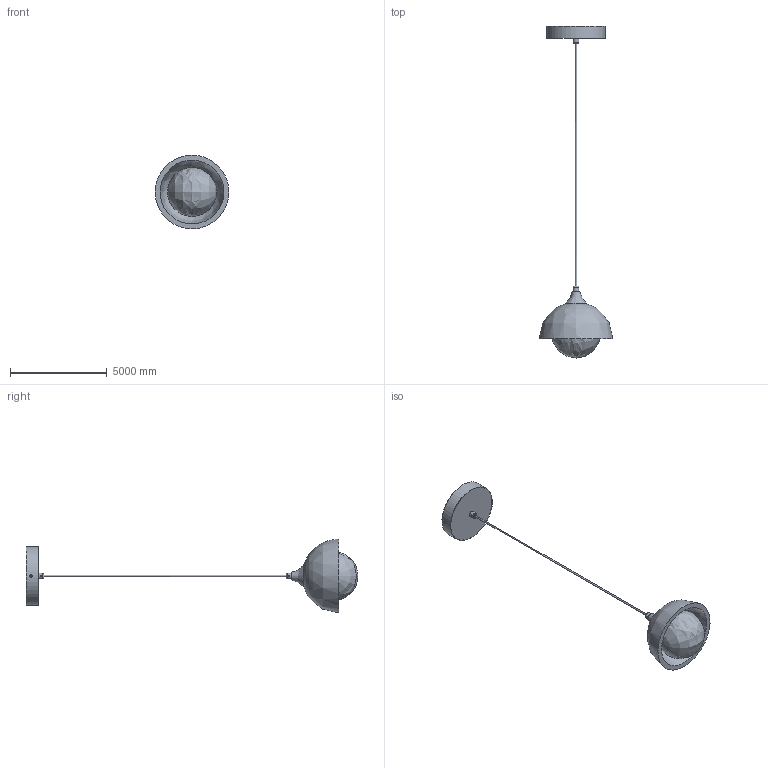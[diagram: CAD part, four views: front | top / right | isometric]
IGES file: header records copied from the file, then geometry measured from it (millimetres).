
Global section: file name: Artome Marble Pendant Lamp-1head; native system: AutoCAD 2022 - 简体中文 (Simplified Chinese),62HAuto; preprocessor: desk Translation Framework DWG producer (atf_dwg_producer); organization: unknown; date: 20251230.104009; units: inch
Bounding box: 3806.55 x 17173.09 x 3806.87 mm (x, y, z)
Volume: 6236447010.3 mm3; surface area: 120063636.4 mm2
Topology: 10 solids, 10 shells, 107 faces, 284 edges, 200 vertices
Faces by surface type: bspline 107
